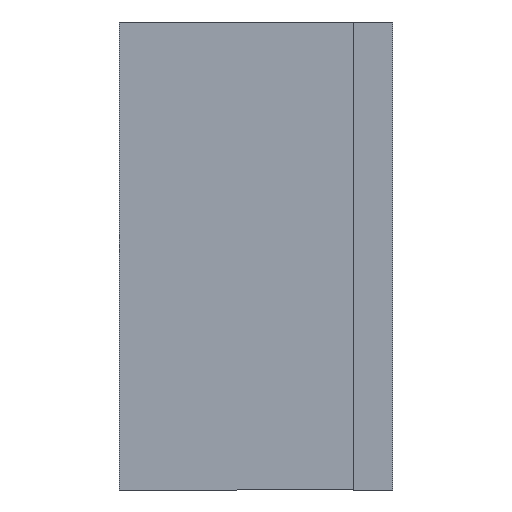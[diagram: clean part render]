
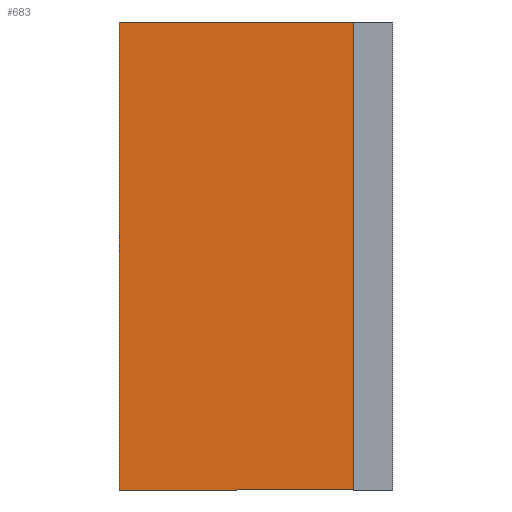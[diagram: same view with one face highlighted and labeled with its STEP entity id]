
A CAD part, left-side view. The second image highlights one B-rep face of the part: STEP entity #683.
In plain terms, the highlighted planar face has unit normal (-1, 0, 0).
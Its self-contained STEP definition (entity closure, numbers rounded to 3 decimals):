
#70 = DIRECTION ( 'NONE',  ( 0., 0., -1. ) ) ;
#120 = ORIENTED_EDGE ( 'NONE', *, *, #621, .F. ) ;
#154 = PLANE ( 'NONE',  #481 ) ;
#194 = VECTOR ( 'NONE', #920, 1000. ) ;
#217 = LINE ( 'NONE', #1357, #194 ) ;
#264 = VECTOR ( 'NONE', #1038, 1000. ) ;
#283 = VERTEX_POINT ( 'NONE', #1071 ) ;
#306 = FACE_OUTER_BOUND ( 'NONE', #1002, .T. ) ;
#308 = CARTESIAN_POINT ( 'NONE',  ( 0., 38.1, 19.05 ) ) ;
#316 = DIRECTION ( 'NONE',  ( 1., 0., 0. ) ) ;
#322 = VECTOR ( 'NONE', #778, 1000. ) ;
#410 = EDGE_CURVE ( 'NONE', #535, #283, #1496, .T. ) ;
#473 = CARTESIAN_POINT ( 'NONE',  ( 0., 0., 19.05 ) ) ;
#481 = AXIS2_PLACEMENT_3D ( 'NONE', #1833, #316, #1326 ) ;
#535 = VERTEX_POINT ( 'NONE', #1028 ) ;
#580 = ORIENTED_EDGE ( 'NONE', *, *, #728, .F. ) ;
#621 = EDGE_CURVE ( 'NONE', #535, #720, #1180, .T. ) ;
#683 = ADVANCED_FACE ( 'NONE', ( #306 ), #154, .F. ) ;
#720 = VERTEX_POINT ( 'NONE', #1389 ) ;
#728 = EDGE_CURVE ( 'NONE', #720, #1462, #217, .T. ) ;
#778 = DIRECTION ( 'NONE',  ( 0., -1., 0. ) ) ;
#908 = LINE ( 'NONE', #1227, #322 ) ;
#920 = DIRECTION ( 'NONE',  ( 0., 0., -1. ) ) ;
#1002 = EDGE_LOOP ( 'NONE', ( #1590, #580, #120, #1104 ) ) ;
#1028 = CARTESIAN_POINT ( 'NONE',  ( 0., 38.1, 19.05 ) ) ;
#1038 = DIRECTION ( 'NONE',  ( 0., -1., 0. ) ) ;
#1071 = CARTESIAN_POINT ( 'NONE',  ( 0., 38.1, 0. ) ) ;
#1104 = ORIENTED_EDGE ( 'NONE', *, *, #410, .T. ) ;
#1180 = LINE ( 'NONE', #473, #264 ) ;
#1227 = CARTESIAN_POINT ( 'NONE',  ( 0., 0., 0. ) ) ;
#1326 = DIRECTION ( 'NONE',  ( 0., 0., -1. ) ) ;
#1357 = CARTESIAN_POINT ( 'NONE',  ( 0., 0., 19.05 ) ) ;
#1389 = CARTESIAN_POINT ( 'NONE',  ( 0., 0., 19.05 ) ) ;
#1462 = VERTEX_POINT ( 'NONE', #1739 ) ;
#1496 = LINE ( 'NONE', #308, #1794 ) ;
#1590 = ORIENTED_EDGE ( 'NONE', *, *, #1608, .T. ) ;
#1608 = EDGE_CURVE ( 'NONE', #283, #1462, #908, .T. ) ;
#1739 = CARTESIAN_POINT ( 'NONE',  ( 0., 0., 0. ) ) ;
#1794 = VECTOR ( 'NONE', #70, 1000. ) ;
#1833 = CARTESIAN_POINT ( 'NONE',  ( 0., 0., 19.05 ) ) ;
